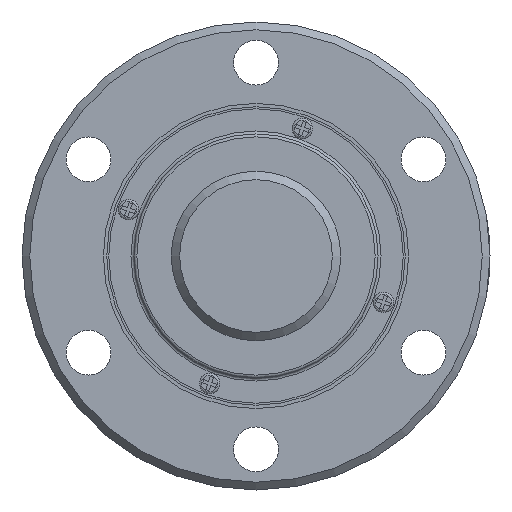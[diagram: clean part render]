
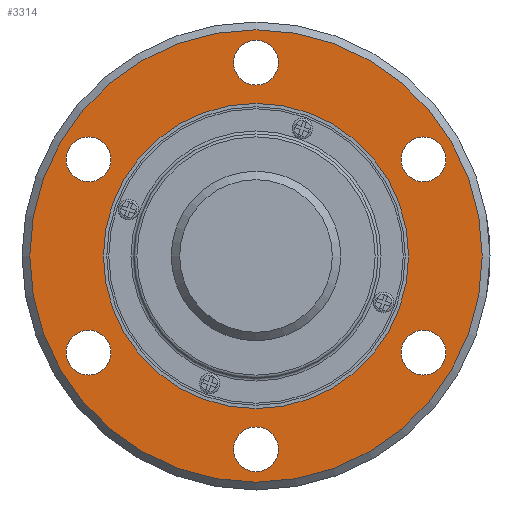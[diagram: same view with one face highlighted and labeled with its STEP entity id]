
A CAD part, left-side view. The second image highlights one B-rep face of the part: STEP entity #3314.
In plain terms, the highlighted planar face has unit normal (-1, 0, 0).
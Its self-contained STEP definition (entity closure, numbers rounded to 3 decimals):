
#700=PLANE('',#3578);
#874=ORIENTED_EDGE('',*,*,#1766,.T.);
#875=ORIENTED_EDGE('',*,*,#1767,.T.);
#876=ORIENTED_EDGE('',*,*,#1768,.T.);
#877=ORIENTED_EDGE('',*,*,#1769,.T.);
#878=ORIENTED_EDGE('',*,*,#1770,.T.);
#879=ORIENTED_EDGE('',*,*,#1771,.T.);
#880=ORIENTED_EDGE('',*,*,#1772,.T.);
#881=ORIENTED_EDGE('',*,*,#1765,.F.);
#1765=EDGE_CURVE('',#2222,#2222,#2549,.T.);
#1766=EDGE_CURVE('',#2223,#2223,#2550,.T.);
#1767=EDGE_CURVE('',#2224,#2224,#2551,.T.);
#1768=EDGE_CURVE('',#2225,#2225,#2552,.T.);
#1769=EDGE_CURVE('',#2226,#2226,#2553,.T.);
#1770=EDGE_CURVE('',#2227,#2227,#2554,.T.);
#1771=EDGE_CURVE('',#2228,#2228,#2555,.T.);
#1772=EDGE_CURVE('',#2229,#2229,#2556,.T.);
#2222=VERTEX_POINT('',#4978);
#2223=VERTEX_POINT('',#4981);
#2224=VERTEX_POINT('',#4983);
#2225=VERTEX_POINT('',#4985);
#2226=VERTEX_POINT('',#4987);
#2227=VERTEX_POINT('',#4989);
#2228=VERTEX_POINT('',#4991);
#2229=VERTEX_POINT('',#4993);
#2549=CIRCLE('',#3577,33.35);
#2550=CIRCLE('',#3579,22.5);
#2551=CIRCLE('',#3580,3.3);
#2552=CIRCLE('',#3581,3.3);
#2553=CIRCLE('',#3582,3.3);
#2554=CIRCLE('',#3583,3.3);
#2555=CIRCLE('',#3584,3.3);
#2556=CIRCLE('',#3585,3.3);
#2709=EDGE_LOOP('',(#874));
#2710=EDGE_LOOP('',(#875));
#2711=EDGE_LOOP('',(#876));
#2712=EDGE_LOOP('',(#877));
#2713=EDGE_LOOP('',(#878));
#2714=EDGE_LOOP('',(#879));
#2715=EDGE_LOOP('',(#880));
#2716=EDGE_LOOP('',(#881));
#2999=FACE_BOUND('',#2709,.T.);
#3000=FACE_BOUND('',#2710,.T.);
#3001=FACE_BOUND('',#2711,.T.);
#3002=FACE_BOUND('',#2712,.T.);
#3003=FACE_BOUND('',#2713,.T.);
#3004=FACE_BOUND('',#2714,.T.);
#3005=FACE_BOUND('',#2715,.T.);
#3006=FACE_BOUND('',#2716,.T.);
#3314=ADVANCED_FACE('',(#2999,#3000,#3001,#3002,#3003,#3004,#3005,#3006),
#700,.T.);
#3577=AXIS2_PLACEMENT_3D('',#4977,#3977,#3978);
#3578=AXIS2_PLACEMENT_3D('',#4979,#3979,#3980);
#3579=AXIS2_PLACEMENT_3D('',#4980,#3981,#3982);
#3580=AXIS2_PLACEMENT_3D('',#4982,#3983,#3984);
#3581=AXIS2_PLACEMENT_3D('',#4984,#3985,#3986);
#3582=AXIS2_PLACEMENT_3D('',#4986,#3987,#3988);
#3583=AXIS2_PLACEMENT_3D('',#4988,#3989,#3990);
#3584=AXIS2_PLACEMENT_3D('',#4990,#3991,#3992);
#3585=AXIS2_PLACEMENT_3D('',#4992,#3993,#3994);
#3977=DIRECTION('',(1.,0.,0.));
#3978=DIRECTION('',(0.,0.,-1.));
#3979=DIRECTION('',(-1.,0.,0.));
#3980=DIRECTION('',(0.,0.,1.));
#3981=DIRECTION('',(1.,0.,0.));
#3982=DIRECTION('',(0.,0.,-1.));
#3983=DIRECTION('',(1.,0.,0.));
#3984=DIRECTION('',(0.,0.,-1.));
#3985=DIRECTION('',(1.,0.,0.));
#3986=DIRECTION('',(0.,0.,-1.));
#3987=DIRECTION('',(1.,0.,0.));
#3988=DIRECTION('',(0.,0.,-1.));
#3989=DIRECTION('',(1.,0.,0.));
#3990=DIRECTION('',(0.,0.,-1.));
#3991=DIRECTION('',(1.,0.,0.));
#3992=DIRECTION('',(0.,0.,-1.));
#3993=DIRECTION('',(1.,0.,0.));
#3994=DIRECTION('',(0.,0.,-1.));
#4977=CARTESIAN_POINT('',(8.5,0.,0.));
#4978=CARTESIAN_POINT('',(8.5,0.,-33.35));
#4979=CARTESIAN_POINT('',(8.5,33.35,0.));
#4980=CARTESIAN_POINT('',(8.5,0.,0.));
#4981=CARTESIAN_POINT('',(8.5,0.,-22.5));
#4982=CARTESIAN_POINT('',(8.5,0.,28.5));
#4983=CARTESIAN_POINT('',(8.5,0.,25.2));
#4984=CARTESIAN_POINT('',(8.5,-24.682,14.25));
#4985=CARTESIAN_POINT('',(8.5,-24.682,10.95));
#4986=CARTESIAN_POINT('',(8.5,-24.682,-14.25));
#4987=CARTESIAN_POINT('',(8.5,-24.682,-17.55));
#4988=CARTESIAN_POINT('',(8.5,0.,-28.5));
#4989=CARTESIAN_POINT('',(8.5,0.,-31.8));
#4990=CARTESIAN_POINT('',(8.5,24.682,-14.25));
#4991=CARTESIAN_POINT('',(8.5,24.682,-17.55));
#4992=CARTESIAN_POINT('',(8.5,24.682,14.25));
#4993=CARTESIAN_POINT('',(8.5,24.682,10.95));
